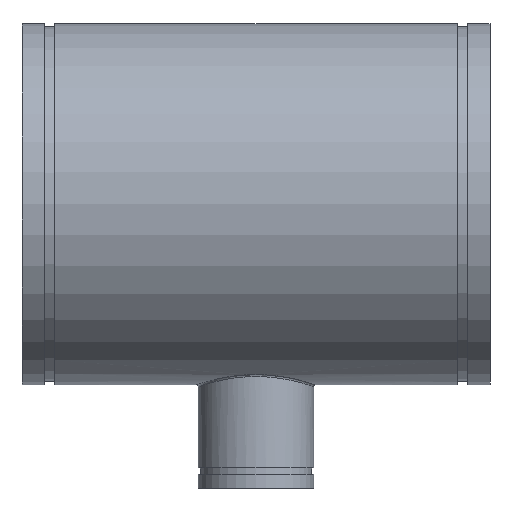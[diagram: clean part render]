
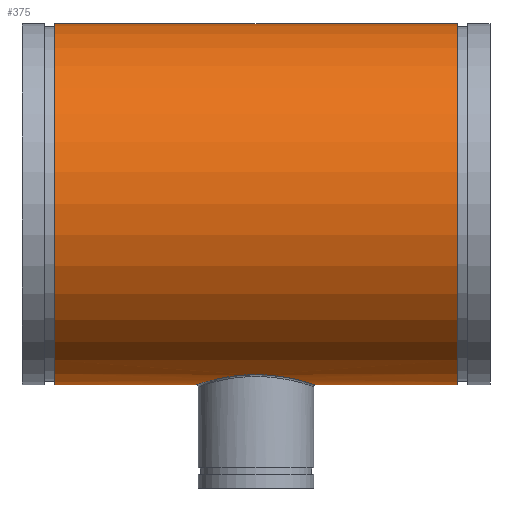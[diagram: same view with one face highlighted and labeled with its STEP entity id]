
A CAD part, top view. The second image highlights one B-rep face of the part: STEP entity #375.
In plain terms, the highlighted cylindrical face has radius 274.32 mm (diameter 548.64 mm), a full revolution.
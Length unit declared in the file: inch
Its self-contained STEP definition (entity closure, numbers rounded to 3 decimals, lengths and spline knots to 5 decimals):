
#54=FACE_BOUND('',#119,.T.);
#65=LINE('',#791,#76);
#76=VECTOR('',#483,10.8);
#87=CYLINDRICAL_SURFACE('',#415,10.8);
#98=FACE_OUTER_BOUND('',#118,.T.);
#118=EDGE_LOOP('',(#266,#267,#268,#269));
#119=EDGE_LOOP('',(#270));
#150=B_SPLINE_CURVE_WITH_KNOTS('',3,(#763,#764,#765,#766,#767,#768,#769,
#770,#771,#772,#773,#774,#775,#776,#777,#778,#779,#780,#781,#782,#783,#784,
#785,#786),.UNSPECIFIED.,.T.,.F.,(4,1,1,1,1,1,1,1,1,1,1,1,1,1,1,1,1,1,1,
1,1,4),(-53.21988,-51.31917,-49.41846,-45.61704,
-43.08276,-40.54848,-38.0142,-35.47992,
-32.94564,-30.41136,-27.87708,-25.3428,
-22.80852,-20.27424,-17.73996,-15.20568,
-12.6714,-10.13712,-7.60284,-3.80142,-1.90071,
0.),.UNSPECIFIED.);
#154=CIRCLE('',#416,10.8);
#155=CIRCLE('',#417,10.8);
#182=VERTEX_POINT('',#731);
#185=VERTEX_POINT('',#788);
#186=VERTEX_POINT('',#790);
#219=EDGE_CURVE('',#182,#182,#150,.T.);
#220=EDGE_CURVE('',#185,#185,#154,.T.);
#221=EDGE_CURVE('',#185,#186,#65,.T.);
#222=EDGE_CURVE('',#186,#186,#155,.T.);
#266=ORIENTED_EDGE('',*,*,#220,.T.);
#267=ORIENTED_EDGE('',*,*,#221,.T.);
#268=ORIENTED_EDGE('',*,*,#222,.T.);
#269=ORIENTED_EDGE('',*,*,#221,.F.);
#270=ORIENTED_EDGE('',*,*,#219,.F.);
#375=ADVANCED_FACE('',(#98,#54),#87,.T.);
#415=AXIS2_PLACEMENT_3D('',#787,#479,#480);
#416=AXIS2_PLACEMENT_3D('',#789,#481,#482);
#417=AXIS2_PLACEMENT_3D('',#792,#484,#485);
#479=DIRECTION('center_axis',(-1.,0.,0.));
#480=DIRECTION('ref_axis',(0.,-1.,0.));
#481=DIRECTION('center_axis',(1.,0.,0.));
#482=DIRECTION('ref_axis',(0.,-1.,0.));
#483=DIRECTION('',(1.,0.,0.));
#484=DIRECTION('center_axis',(-1.,0.,0.));
#485=DIRECTION('ref_axis',(0.,-1.,0.));
#731=CARTESIAN_POINT('',(0.,-10.2054,-3.5341));
#763=CARTESIAN_POINT('Ctrl Pts',(0.,-10.2054,
-3.5341));
#764=CARTESIAN_POINT('Ctrl Pts',(0.26929,-10.2054,-3.5341));
#765=CARTESIAN_POINT('Ctrl Pts',(0.80764,-10.22667,-3.47349));
#766=CARTESIAN_POINT('Ctrl Pts',(1.82485,-10.34391,-3.1196));
#767=CARTESIAN_POINT('Ctrl Pts',(2.74412,-10.5502,-2.39286));
#768=CARTESIAN_POINT('Ctrl Pts',(3.37488,-10.735,-1.31806));
#769=CARTESIAN_POINT('Ctrl Pts',(3.6195,-10.81463,-0.27057));
#770=CARTESIAN_POINT('Ctrl Pts',(3.53693,-10.78721,0.80456));
#771=CARTESIAN_POINT('Ctrl Pts',(3.1386,-10.6627,1.79961));
#772=CARTESIAN_POINT('Ctrl Pts',(2.46795,-10.48401,2.62856));
#773=CARTESIAN_POINT('Ctrl Pts',(1.58127,-10.3098,3.22848));
#774=CARTESIAN_POINT('Ctrl Pts',(0.54557,-10.20098,3.54728));
#775=CARTESIAN_POINT('Ctrl Pts',(-0.5456,-10.2009,3.54734));
#776=CARTESIAN_POINT('Ctrl Pts',(-1.58124,-10.30984,3.22844));
#777=CARTESIAN_POINT('Ctrl Pts',(-2.46799,-10.484,2.62854));
#778=CARTESIAN_POINT('Ctrl Pts',(-3.13858,-10.6627,1.79961));
#779=CARTESIAN_POINT('Ctrl Pts',(-3.53699,-10.78726,0.80456));
#780=CARTESIAN_POINT('Ctrl Pts',(-3.61942,-10.81458,-0.27055));
#781=CARTESIAN_POINT('Ctrl Pts',(-3.37491,-10.73504,-1.31809));
#782=CARTESIAN_POINT('Ctrl Pts',(-2.7441,-10.55016,-2.39286));
#783=CARTESIAN_POINT('Ctrl Pts',(-1.82483,-10.34393,-3.11961));
#784=CARTESIAN_POINT('Ctrl Pts',(-0.80764,-10.22667,-3.47348));
#785=CARTESIAN_POINT('Ctrl Pts',(-0.26929,-10.2054,-3.5341));
#786=CARTESIAN_POINT('Ctrl Pts',(0.,-10.2054,
-3.5341));
#787=CARTESIAN_POINT('Origin',(14.,0.,0.));
#788=CARTESIAN_POINT('',(-12.035,10.8,0.));
#789=CARTESIAN_POINT('Origin',(-12.035,0.,0.));
#790=CARTESIAN_POINT('',(12.035,10.8,0.));
#791=CARTESIAN_POINT('',(14.,10.8,0.));
#792=CARTESIAN_POINT('Origin',(12.035,0.,0.));
